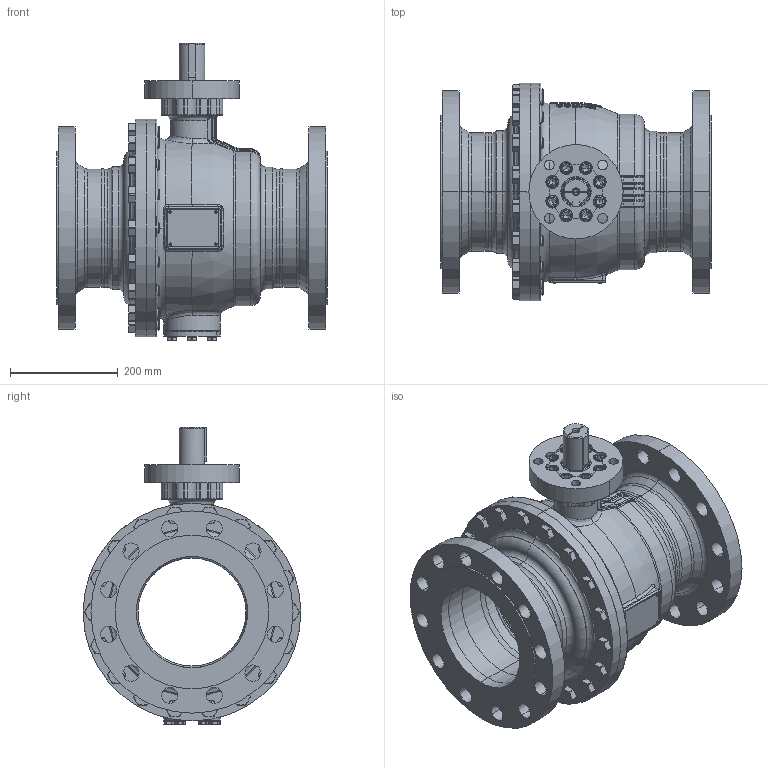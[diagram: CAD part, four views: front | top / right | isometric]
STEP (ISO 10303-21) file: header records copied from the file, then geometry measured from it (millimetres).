
FILE_DESCRIPTION((''),'2;1');
FILE_NAME('KHI-F_200_PN040-F14-P_SW0001','2026-02-05T12:38:37',('fischerkl'),('KLINGER'),'CREO PARAMETRIC BY PTC INC, 2023014','CREO PARAMETRIC BY PTC INC, 2023014','');
FILE_SCHEMA(('CONFIG_CONTROL_DESIGN'));
Products named in the file (1): KHI-F_200_PN040-F14-P_SW0001
Bounding box: 502 x 404 x 552.2 mm (x, y, z)
Volume: 14869187.8 mm3; surface area: 2422046.3 mm2
Topology: 1 solids, 4 shells, 3374 faces, 8564 edges, 5326 vertices
Faces by surface type: plane 1857, cylinder 724, cone 360, torus 295, bspline 108, sphere 30
Entity records: 134923 total; most frequent: CARTESIAN_POINT 55011, ORIENTED_EDGE 17076, DIRECTION 16184, EDGE_CURVE 8538, AXIS2_PLACEMENT_3D 5966, VERTEX_POINT 5326, VECTOR 4252, LINE 4252
